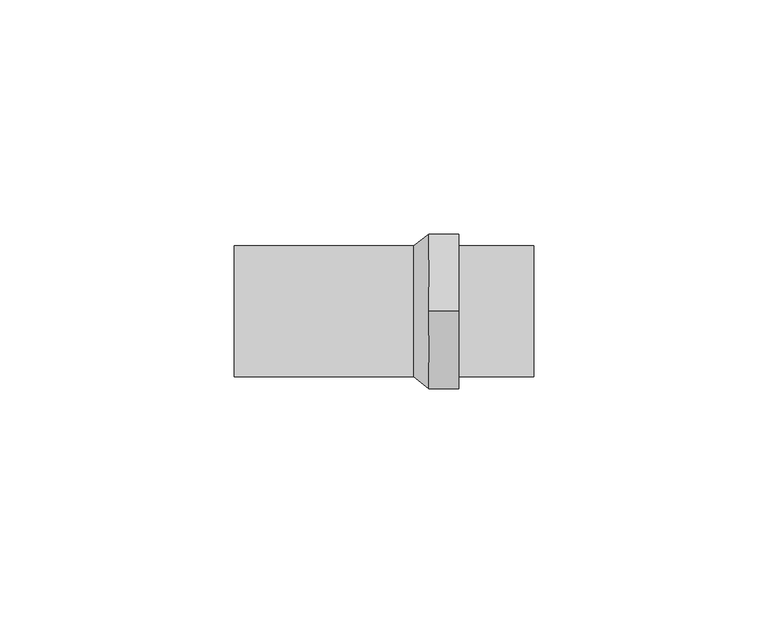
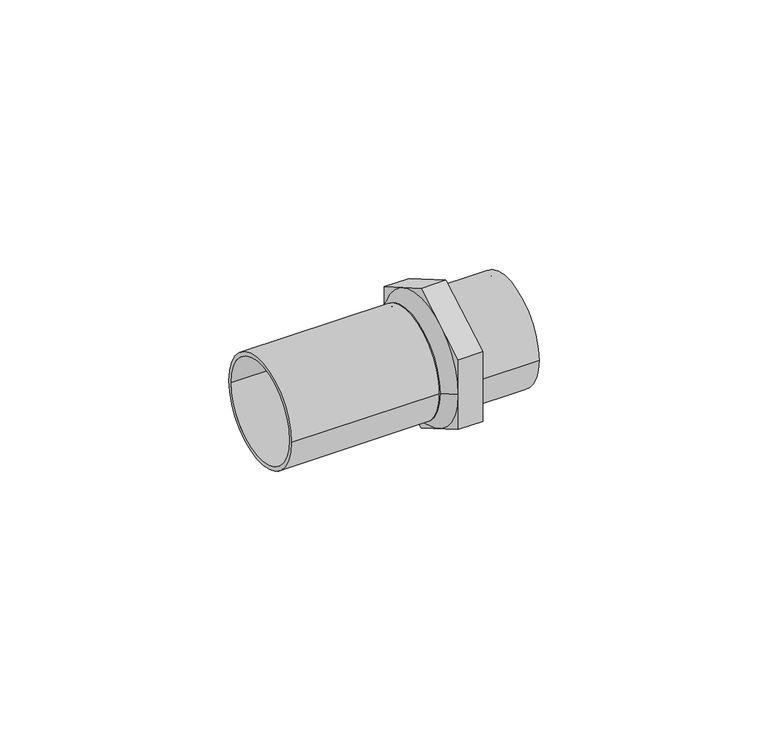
"""IFC4 building model written with IfcOpenShell, lengths in millimetres: pipe fitting geometry, VALTEC_VTi.906.I_Вставка с наружной резьбой нержавеющая сталь : VTi.906.I."""

from ifc_helpers import new_model, si_unit, point, frame, origin, origin_2d, place, context, project, spatial, polyline, circle_curve, trimmed, segment, composite_curve, outline, extrude, source, transform, mapped, element, save
from ifc_brep_helpers import plane_surface, revolved_surface, advanced_brep


def pipe_fitting_c2bc717e(model_context):
    return source(origin(), model_context, "Body", "SolidModel", [
        extrude(outline(composite_curve([segment(trimmed(circle_curve(origin_2d(), 14.0), [point((-14.0, 0.0))], [point((14.0, 0.0))], False, "CARTESIAN"), True, "CONTINUOUS"), segment(trimmed(circle_curve(origin_2d(), 14.0), [point((14.0, 0.0))], [point((-14.0, 0.0))], False, "CARTESIAN"), True, "CONTINUOUS")], self_intersect=False), holes=[composite_curve([segment(trimmed(circle_curve(origin_2d(), 12.5), [point((-12.5, 0.0))], [point((12.5, 0.0))], True, "CARTESIAN"), True, "CONTINUOUS"), segment(trimmed(circle_curve(origin_2d(), 12.5), [point((12.5, 0.0))], [point((-12.5, 0.0))], True, "CARTESIAN"), True, "CONTINUOUS")], self_intersect=False)]), frame((48.0, 0.0, 0.0), z_axis=(1.0, 0.0, 0.0), x_axis=(0.0, 1.0, 0.0)), (0.0, 0.0, 1.0), 16.0),
        advanced_brep(
        [(41.6, -16.5, 0.0), (41.6, 16.5, 0.0), (38.4, -14.0, 0.0), (38.4, 14.0, 0.0)],
        [
            (0, 1, circle_curve(frame((41.6, 0.0, 0.0), z_axis=(1.0, 0.0, 0.0), x_axis=(0.0, -1.0, 0.0)), 16.5)),
            (1, 0, circle_curve(frame((41.6, 0.0, 0.0), z_axis=(1.0, 0.0, 0.0), x_axis=(0.0, 1.0, 0.0)), 16.5)),
            (2, 3, circle_curve(frame((38.4, 0.0, 0.0), z_axis=(-1.0, 0.0, 0.0), x_axis=(0.0, 1.0, 0.0)), 14.0)),
            (3, 2, circle_curve(frame((38.4, 0.0, 0.0), z_axis=(-1.0, 0.0, 0.0), x_axis=(0.0, -1.0, 0.0)), 14.0)),
            (3, 1),
            (0, 2),
        ],
        [
            plane_surface(frame((41.6, 0.0, 0.0), z_axis=(1.0, 0.0, 0.0), x_axis=(0.0, 0.0, -1.0))),
            plane_surface(frame((38.4, 0.0, 0.0), z_axis=(-1.0, 0.0, 0.0), x_axis=(0.0, 0.0, -1.0))),
            revolved_surface(polyline([(38.4, 13.999999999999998, 0.0), (41.6, 16.5, 0.0)]), (20.48, 0.0, 0.0), (1.0, 0.0, 0.0)),
            revolved_surface(polyline([(38.4, -13.999999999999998, 0.0), (41.6, -16.5, 0.0)]), (20.48, 0.0, 0.0), (1.0, 0.0, 0.0)),
        ],
        [
            (0, [[1, 2]]),
            (1, [[3, 4]]),
            (2, [[-4, 5, -1, 6]]),
            (3, [[-3, -6, -2, -5]]),
        ],
    ),
        extrude(outline(polyline([(0.0, 19.0525589), (16.5, 9.5262794), (16.5, -9.5262794), (0.0, -19.0525589), (-16.5, -9.5262794), (-16.5, 9.5262794), (0.0, 19.0525589)]), holes=[composite_curve([segment(trimmed(circle_curve(origin_2d(), 12.5), [point((-12.5, 0.0))], [point((12.5, 0.0))], True, "CARTESIAN"), True, "CONTINUOUS"), segment(trimmed(circle_curve(origin_2d(), 12.5), [point((12.5, 0.0))], [point((-12.5, 0.0))], True, "CARTESIAN"), True, "CONTINUOUS")], self_intersect=False)]), frame((41.6, 0.0, 0.0), z_axis=(1.0, 0.0, 0.0), x_axis=(0.0, 1.0, 0.0)), (0.0, 0.0, 1.0), 6.4),
        extrude(outline(composite_curve([segment(trimmed(circle_curve(origin_2d(), 14.0), [point((-14.0, 0.0))], [point((14.0, 0.0))], False, "CARTESIAN"), True, "CONTINUOUS"), segment(trimmed(circle_curve(origin_2d(), 14.0), [point((14.0, 0.0))], [point((-14.0, 0.0))], False, "CARTESIAN"), True, "CONTINUOUS")], self_intersect=False), holes=[composite_curve([segment(trimmed(circle_curve(origin_2d(), 13.0), [point((-13.0, 0.0))], [point((13.0, 0.0))], True, "CARTESIAN"), True, "CONTINUOUS"), segment(trimmed(circle_curve(origin_2d(), 13.0), [point((13.0, 0.0))], [point((-13.0, 0.0))], True, "CARTESIAN"), True, "CONTINUOUS")], self_intersect=False)]), frame((0.0, 0.0, 0.0), z_axis=(1.0, 0.0, 0.0), x_axis=(0.0, 1.0, 0.0)), (0.0, 0.0, 1.0), 38.4),
    ])


if __name__ == "__main__":
    model = new_model("IFC4")
    model_context = context("Model", 3, world=origin())
    ifc_project = project(units=[si_unit("LENGTHUNIT", "METRE", prefix="MILLI")], contexts=[model_context])
    site = spatial("IfcSite", under=ifc_project)
    building = spatial("IfcBuilding", under=site)
    placement = place(None, origin())
    pipe_fitting_shape = pipe_fitting_c2bc717e(model_context)
    element("IfcPipeFitting", 1, ObjectType="VALTEC_VTi.906.I_Вставка с наружной резьбой нержавеющая сталь : VTi.906.I", at=placement, inside=building, context=model_context, shape_type="MappedRepresentation", body=[
        mapped(pipe_fitting_shape, transform((0.0, 0.0, 0.0), x_axis=(1.0, 0.0, 0.0), y_axis=(0.0, 1.0, 0.0), z_axis=(0.0, 0.0, 1.0))),
    ])
    save(model, "model.ifc")
